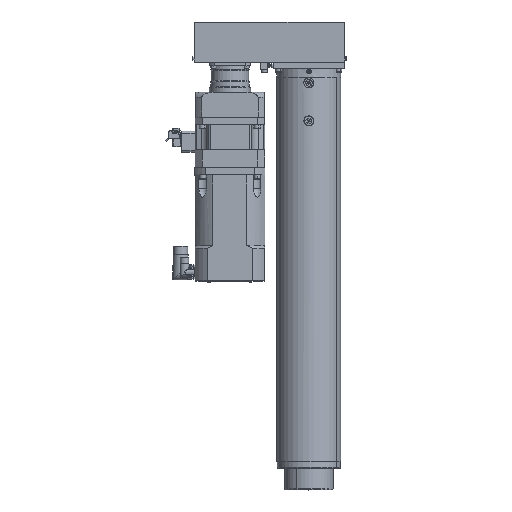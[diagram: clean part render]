
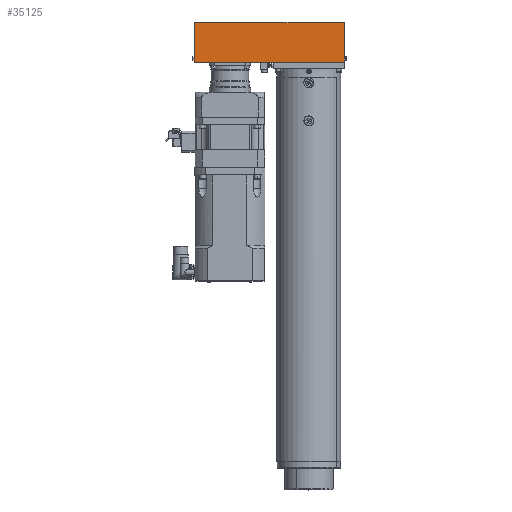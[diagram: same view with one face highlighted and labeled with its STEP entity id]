
A CAD part, top view. The second image highlights one B-rep face of the part: STEP entity #35125.
In plain terms, the highlighted planar face has unit normal (0, 0, 1).
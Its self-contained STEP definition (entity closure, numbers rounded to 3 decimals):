
#123 = VERTEX_POINT ( 'NONE', #65039 ) ;
#392 = FACE_OUTER_BOUND ( 'NONE', #5397, .T. ) ;
#3821 = DIRECTION ( 'NONE',  ( 0., 1., 0. ) ) ;
#5227 = DIRECTION ( 'NONE',  ( 0., 0., -1. ) ) ;
#5397 = EDGE_LOOP ( 'NONE', ( #59052, #57061, #76793, #53564 ) ) ;
#8593 = LINE ( 'NONE', #34413, #64870 ) ;
#9469 = DIRECTION ( 'NONE',  ( 1., 0., 0. ) ) ;
#13673 = EDGE_CURVE ( 'NONE', #123, #56422, #32783, .T. ) ;
#17561 = VECTOR ( 'NONE', #63050, 1000. ) ;
#17886 = CARTESIAN_POINT ( 'NONE',  ( -419.5, 1241.5, 199.5 ) ) ;
#18704 = PLANE ( 'NONE',  #30561 ) ;
#20461 = CARTESIAN_POINT ( 'NONE',  ( -418.5, 1242., 199.5 ) ) ;
#22525 = EDGE_CURVE ( 'NONE', #42132, #62724, #8593, .T. ) ;
#29088 = DIRECTION ( 'NONE',  ( -1., 0., 0. ) ) ;
#30561 = AXIS2_PLACEMENT_3D ( 'NONE', #47820, #5227, #55340 ) ;
#32783 = LINE ( 'NONE', #20461, #17561 ) ;
#34413 = CARTESIAN_POINT ( 'NONE',  ( -1., 1242., 199.5 ) ) ;
#35125 = ADVANCED_FACE ( 'NONE', ( #392 ), #18704, .F. ) ;
#42132 = VERTEX_POINT ( 'NONE', #55024 ) ;
#42547 = CARTESIAN_POINT ( 'NONE',  ( -418.5, 1132., 199.5 ) ) ;
#47820 = CARTESIAN_POINT ( 'NONE',  ( -418., 1242., 199.5 ) ) ;
#53564 = ORIENTED_EDGE ( 'NONE', *, *, #13673, .T. ) ;
#55024 = CARTESIAN_POINT ( 'NONE',  ( -1., 1132., 199.5 ) ) ;
#55340 = DIRECTION ( 'NONE',  ( -1., 0., 0. ) ) ;
#56422 = VERTEX_POINT ( 'NONE', #42547 ) ;
#57061 = ORIENTED_EDGE ( 'NONE', *, *, #22525, .T. ) ;
#59052 = ORIENTED_EDGE ( 'NONE', *, *, #71450, .T. ) ;
#61292 = LINE ( 'NONE', #61703, #74470 ) ;
#61703 = CARTESIAN_POINT ( 'NONE',  ( -418., 1132., 199.5 ) ) ;
#62724 = VERTEX_POINT ( 'NONE', #66875 ) ;
#63050 = DIRECTION ( 'NONE',  ( 0., -1., 0. ) ) ;
#64870 = VECTOR ( 'NONE', #3821, 1000. ) ;
#65039 = CARTESIAN_POINT ( 'NONE',  ( -418.5, 1241.5, 199.5 ) ) ;
#66875 = CARTESIAN_POINT ( 'NONE',  ( -1., 1241.5, 199.5 ) ) ;
#67230 = EDGE_CURVE ( 'NONE', #62724, #123, #77696, .T. ) ;
#71450 = EDGE_CURVE ( 'NONE', #56422, #42132, #61292, .T. ) ;
#73412 = VECTOR ( 'NONE', #29088, 1000. ) ;
#74470 = VECTOR ( 'NONE', #9469, 1000. ) ;
#76793 = ORIENTED_EDGE ( 'NONE', *, *, #67230, .T. ) ;
#77696 = LINE ( 'NONE', #17886, #73412 ) ;
